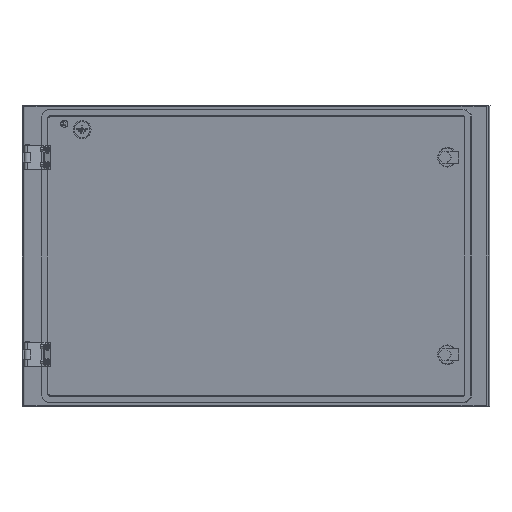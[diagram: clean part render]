
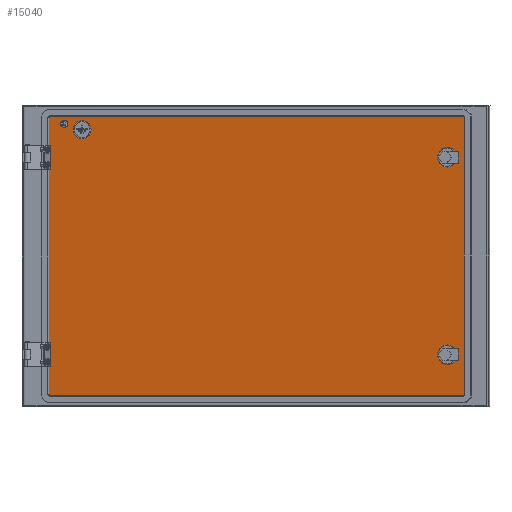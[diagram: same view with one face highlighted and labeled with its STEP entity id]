
A CAD part, left-side view. The second image highlights one B-rep face of the part: STEP entity #15040.
In plain terms, the highlighted planar face has unit normal (-0.966, 0.259, 0).
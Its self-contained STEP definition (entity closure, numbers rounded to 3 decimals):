
#28 = EDGE_CURVE ( 'NONE', #16611, #2500, #10086, .T. ) ;
#118 = CIRCLE ( 'NONE', #16545, 15. ) ;
#384 = ORIENTED_EDGE ( 'NONE', *, *, #18860, .F. ) ;
#398 = AXIS2_PLACEMENT_3D ( 'NONE', #7546, #12378, #12491 ) ;
#493 = CARTESIAN_POINT ( 'NONE',  ( 97.096, 341.008, -0.988 ) ) ;
#603 = CARTESIAN_POINT ( 'NONE',  ( 82.357, 285.946, 207.012 ) ) ;
#646 = CARTESIAN_POINT ( 'NONE',  ( -82.874, -331.322, 161.512 ) ) ;
#678 = DIRECTION ( 'NONE',  ( 0.259, 0.966, 0. ) ) ;
#803 = VECTOR ( 'NONE', #6892, 1000. ) ;
#1136 = VECTOR ( 'NONE', #3625, 1000. ) ;
#1147 = VERTEX_POINT ( 'NONE', #12139 ) ;
#1262 = VERTEX_POINT ( 'NONE', #7825 ) ;
#1283 = CIRCLE ( 'NONE', #9638, 2.65 ) ;
#1291 = CARTESIAN_POINT ( 'NONE',  ( 97.096, 341.008, -228.988 ) ) ;
#1330 = CARTESIAN_POINT ( 'NONE',  ( 96.578, 339.076, 229.012 ) ) ;
#1500 = CARTESIAN_POINT ( 'NONE',  ( -85.718, -341.948, 227.012 ) ) ;
#1606 = DIRECTION ( 'NONE',  ( 0.966, -0.259, 0. ) ) ;
#1961 = DIRECTION ( 'NONE',  ( -0.966, 0.259, 0. ) ) ;
#2139 = EDGE_LOOP ( 'NONE', ( #8276, #15077 ) ) ;
#2500 = VERTEX_POINT ( 'NONE', #19494 ) ;
#2586 = DIRECTION ( 'NONE',  ( 0.259, 0.966, 0. ) ) ;
#3033 = FACE_BOUND ( 'NONE', #2139, .T. ) ;
#3494 = ORIENTED_EDGE ( 'NONE', *, *, #12564, .F. ) ;
#3573 = EDGE_CURVE ( 'NONE', #1262, #15601, #13371, .T. ) ;
#3574 = EDGE_CURVE ( 'NONE', #19164, #8009, #12019, .T. ) ;
#3625 = DIRECTION ( 'NONE',  ( 0., 0., -1. ) ) ;
#3978 = EDGE_CURVE ( 'NONE', #16713, #18303, #7672, .T. ) ;
#4342 = AXIS2_PLACEMENT_3D ( 'NONE', #603, #12153, #2586 ) ;
#4394 = FACE_BOUND ( 'NONE', #10692, .T. ) ;
#4733 = DIRECTION ( 'NONE',  ( -0.966, 0.259, 0. ) ) ;
#4761 = CARTESIAN_POINT ( 'NONE',  ( -78.736, -315.866, -163.488 ) ) ;
#4766 = VERTEX_POINT ( 'NONE', #12944 ) ;
#4974 = AXIS2_PLACEMENT_3D ( 'NONE', #10548, #8861, #678 ) ;
#5143 = ORIENTED_EDGE ( 'NONE', *, *, #12514, .F. ) ;
#5186 = EDGE_CURVE ( 'NONE', #12862, #16611, #5527, .T. ) ;
#5413 = LINE ( 'NONE', #493, #803 ) ;
#5423 = CARTESIAN_POINT ( 'NONE',  ( 90.114, 314.926, 217.012 ) ) ;
#5527 = LINE ( 'NONE', #17054, #13397 ) ;
#5614 = ORIENTED_EDGE ( 'NONE', *, *, #3574, .F. ) ;
#5661 = DIRECTION ( 'NONE',  ( 0.259, 0.966, 0. ) ) ;
#5816 = EDGE_CURVE ( 'NONE', #4766, #9860, #15413, .T. ) ;
#6081 = PLANE ( 'NONE',  #398 ) ;
#6348 = DIRECTION ( 'NONE',  ( -0.966, 0.259, 0. ) ) ;
#6435 = CIRCLE ( 'NONE', #7058, 2. ) ;
#6523 = CARTESIAN_POINT ( 'NONE',  ( 96.578, 339.076, 227.012 ) ) ;
#6606 = CARTESIAN_POINT ( 'NONE',  ( -85.718, -341.948, 229.012 ) ) ;
#6621 = ORIENTED_EDGE ( 'NONE', *, *, #3573, .F. ) ;
#6838 = EDGE_CURVE ( 'NONE', #9860, #4766, #9091, .T. ) ;
#6892 = DIRECTION ( 'NONE',  ( 0., 0., 1. ) ) ;
#6992 = CARTESIAN_POINT ( 'NONE',  ( -86.235, -343.88, 227.012 ) ) ;
#7058 = AXIS2_PLACEMENT_3D ( 'NONE', #17449, #8205, #12640 ) ;
#7075 = AXIS2_PLACEMENT_3D ( 'NONE', #18108, #1961, #19586 ) ;
#7458 = EDGE_CURVE ( 'NONE', #13962, #13836, #20165, .T. ) ;
#7527 = DIRECTION ( 'NONE',  ( -0.259, -0.966, 0. ) ) ;
#7546 = CARTESIAN_POINT ( 'NONE',  ( -37.623, -162.274, 715.512 ) ) ;
#7672 = CIRCLE ( 'NONE', #4974, 16. ) ;
#7722 = EDGE_CURVE ( 'NONE', #15601, #1262, #1283, .T. ) ;
#7821 = CARTESIAN_POINT ( 'NONE',  ( -74.599, -300.41, -163.488 ) ) ;
#7825 = CARTESIAN_POINT ( 'NONE',  ( 89.451, 312.448, 216.346 ) ) ;
#8009 = VERTEX_POINT ( 'NONE', #15950 ) ;
#8027 = CARTESIAN_POINT ( 'NONE',  ( 96.578, 339.076, 229.012 ) ) ;
#8083 = AXIS2_PLACEMENT_3D ( 'NONE', #14007, #6348, #15590 ) ;
#8117 = DIRECTION ( 'NONE',  ( 0.259, 0.966, 0. ) ) ;
#8189 = DIRECTION ( 'NONE',  ( 0.259, 0.966, 0. ) ) ;
#8205 = DIRECTION ( 'NONE',  ( -0.966, 0.259, 0. ) ) ;
#8276 = ORIENTED_EDGE ( 'NONE', *, *, #6838, .F. ) ;
#8800 = VERTEX_POINT ( 'NONE', #1291 ) ;
#8861 = DIRECTION ( 'NONE',  ( -0.966, 0.259, 0. ) ) ;
#9091 = CIRCLE ( 'NONE', #8083, 16. ) ;
#9288 = EDGE_LOOP ( 'NONE', ( #6621, #18572 ) ) ;
#9367 = ORIENTED_EDGE ( 'NONE', *, *, #28, .T. ) ;
#9391 = CIRCLE ( 'NONE', #4342, 15. ) ;
#9638 = AXIS2_PLACEMENT_3D ( 'NONE', #20048, #13340, #5661 ) ;
#9860 = VERTEX_POINT ( 'NONE', #7821 ) ;
#9886 = DIRECTION ( 'NONE',  ( 0.259, 0.966, 0. ) ) ;
#10086 = CIRCLE ( 'NONE', #7075, 2. ) ;
#10114 = AXIS2_PLACEMENT_3D ( 'NONE', #6523, #1606, #18046 ) ;
#10157 = LINE ( 'NONE', #6992, #1136 ) ;
#10267 = DIRECTION ( 'NONE',  ( 0.966, -0.259, 0. ) ) ;
#10548 = CARTESIAN_POINT ( 'NONE',  ( -78.736, -315.866, 161.512 ) ) ;
#10692 = EDGE_LOOP ( 'NONE', ( #3494, #384 ) ) ;
#10733 = AXIS2_PLACEMENT_3D ( 'NONE', #4761, #17554, #8117 ) ;
#10917 = FACE_BOUND ( 'NONE', #15304, .T. ) ;
#11365 = AXIS2_PLACEMENT_3D ( 'NONE', #1500, #10267, #18126 ) ;
#11672 = CARTESIAN_POINT ( 'NONE',  ( 86.235, 300.436, 207.012 ) ) ;
#11730 = CARTESIAN_POINT ( 'NONE',  ( 82.357, 285.946, 207.012 ) ) ;
#12019 = CIRCLE ( 'NONE', #11365, 2. ) ;
#12139 = CARTESIAN_POINT ( 'NONE',  ( 78.478, 271.456, 207.012 ) ) ;
#12153 = DIRECTION ( 'NONE',  ( -0.966, 0.259, 0. ) ) ;
#12272 = FACE_OUTER_BOUND ( 'NONE', #12468, .T. ) ;
#12378 = DIRECTION ( 'NONE',  ( 0.966, -0.259, 0. ) ) ;
#12458 = DIRECTION ( 'NONE',  ( -0.259, -0.966, 0. ) ) ;
#12468 = EDGE_LOOP ( 'NONE', ( #17214, #20436, #19376, #9367, #5143, #5614, #15955, #14020 ) ) ;
#12491 = DIRECTION ( 'NONE',  ( 0., 0., -1. ) ) ;
#12514 = EDGE_CURVE ( 'NONE', #8009, #2500, #10157, .T. ) ;
#12543 = EDGE_CURVE ( 'NONE', #8800, #13962, #5413, .T. ) ;
#12564 = EDGE_CURVE ( 'NONE', #15670, #1147, #118, .T. ) ;
#12640 = DIRECTION ( 'NONE',  ( 0.259, 0.966, 0. ) ) ;
#12862 = VERTEX_POINT ( 'NONE', #13063 ) ;
#12944 = CARTESIAN_POINT ( 'NONE',  ( -82.874, -331.322, -163.488 ) ) ;
#13063 = CARTESIAN_POINT ( 'NONE',  ( 96.578, 339.076, -230.988 ) ) ;
#13340 = DIRECTION ( 'NONE',  ( -0.966, 0.259, 0. ) ) ;
#13371 = CIRCLE ( 'NONE', #19387, 2.65 ) ;
#13397 = VECTOR ( 'NONE', #7527, 1000. ) ;
#13738 = EDGE_CURVE ( 'NONE', #13836, #19164, #17668, .T. ) ;
#13836 = VERTEX_POINT ( 'NONE', #1330 ) ;
#13962 = VERTEX_POINT ( 'NONE', #16628 ) ;
#14007 = CARTESIAN_POINT ( 'NONE',  ( -78.736, -315.866, -163.488 ) ) ;
#14020 = ORIENTED_EDGE ( 'NONE', *, *, #7458, .F. ) ;
#14351 = EDGE_CURVE ( 'NONE', #18303, #16713, #18811, .T. ) ;
#14572 = VECTOR ( 'NONE', #12458, 1000. ) ;
#15013 = ORIENTED_EDGE ( 'NONE', *, *, #3978, .F. ) ;
#15040 = ADVANCED_FACE ( 'NONE', ( #12272, #3033, #10917, #18664, #4394 ), #6081, .F. ) ;
#15077 = ORIENTED_EDGE ( 'NONE', *, *, #5816, .F. ) ;
#15304 = EDGE_LOOP ( 'NONE', ( #19659, #15013 ) ) ;
#15413 = CIRCLE ( 'NONE', #10733, 16. ) ;
#15540 = EDGE_CURVE ( 'NONE', #8800, #12862, #6435, .T. ) ;
#15590 = DIRECTION ( 'NONE',  ( 0.259, 0.966, 0. ) ) ;
#15601 = VERTEX_POINT ( 'NONE', #16604 ) ;
#15670 = VERTEX_POINT ( 'NONE', #11672 ) ;
#15950 = CARTESIAN_POINT ( 'NONE',  ( -86.235, -343.88, 227.012 ) ) ;
#15955 = ORIENTED_EDGE ( 'NONE', *, *, #13738, .F. ) ;
#16084 = CARTESIAN_POINT ( 'NONE',  ( -78.736, -315.866, 161.512 ) ) ;
#16510 = CARTESIAN_POINT ( 'NONE',  ( -74.599, -300.41, 161.512 ) ) ;
#16545 = AXIS2_PLACEMENT_3D ( 'NONE', #11730, #18113, #16552 ) ;
#16552 = DIRECTION ( 'NONE',  ( 0.259, 0.966, 0. ) ) ;
#16604 = CARTESIAN_POINT ( 'NONE',  ( 90.777, 317.404, 217.679 ) ) ;
#16611 = VERTEX_POINT ( 'NONE', #17958 ) ;
#16628 = CARTESIAN_POINT ( 'NONE',  ( 97.096, 341.008, 227.012 ) ) ;
#16713 = VERTEX_POINT ( 'NONE', #646 ) ;
#17054 = CARTESIAN_POINT ( 'NONE',  ( 96.578, 339.076, -230.988 ) ) ;
#17214 = ORIENTED_EDGE ( 'NONE', *, *, #12543, .F. ) ;
#17449 = CARTESIAN_POINT ( 'NONE',  ( 96.578, 339.076, -228.988 ) ) ;
#17554 = DIRECTION ( 'NONE',  ( -0.966, 0.259, 0. ) ) ;
#17668 = LINE ( 'NONE', #8027, #14572 ) ;
#17958 = CARTESIAN_POINT ( 'NONE',  ( -85.718, -341.948, -230.988 ) ) ;
#18046 = DIRECTION ( 'NONE',  ( 0.259, 0.966, 0. ) ) ;
#18108 = CARTESIAN_POINT ( 'NONE',  ( -85.718, -341.948, -228.988 ) ) ;
#18113 = DIRECTION ( 'NONE',  ( -0.966, 0.259, 0. ) ) ;
#18126 = DIRECTION ( 'NONE',  ( 0., 0., 1. ) ) ;
#18303 = VERTEX_POINT ( 'NONE', #16510 ) ;
#18572 = ORIENTED_EDGE ( 'NONE', *, *, #7722, .F. ) ;
#18664 = FACE_BOUND ( 'NONE', #9288, .T. ) ;
#18811 = CIRCLE ( 'NONE', #19146, 16. ) ;
#18860 = EDGE_CURVE ( 'NONE', #1147, #15670, #9391, .T. ) ;
#19146 = AXIS2_PLACEMENT_3D ( 'NONE', #16084, #19438, #9886 ) ;
#19164 = VERTEX_POINT ( 'NONE', #6606 ) ;
#19376 = ORIENTED_EDGE ( 'NONE', *, *, #5186, .T. ) ;
#19387 = AXIS2_PLACEMENT_3D ( 'NONE', #5423, #4733, #8189 ) ;
#19438 = DIRECTION ( 'NONE',  ( -0.966, 0.259, 0. ) ) ;
#19494 = CARTESIAN_POINT ( 'NONE',  ( -86.235, -343.88, -228.988 ) ) ;
#19586 = DIRECTION ( 'NONE',  ( 0., 0., -1. ) ) ;
#19659 = ORIENTED_EDGE ( 'NONE', *, *, #14351, .F. ) ;
#20048 = CARTESIAN_POINT ( 'NONE',  ( 90.114, 314.926, 217.012 ) ) ;
#20165 = CIRCLE ( 'NONE', #10114, 2. ) ;
#20436 = ORIENTED_EDGE ( 'NONE', *, *, #15540, .T. ) ;
